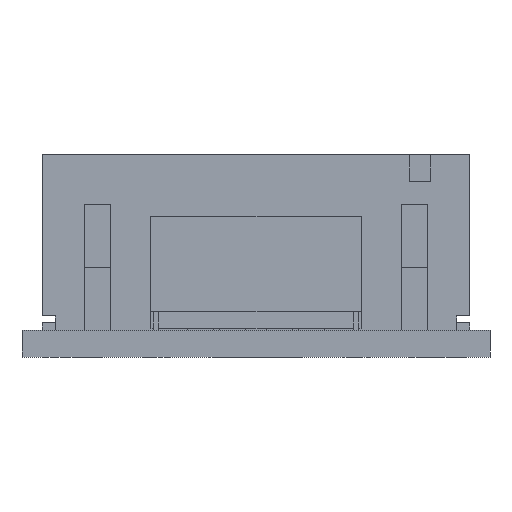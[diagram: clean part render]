
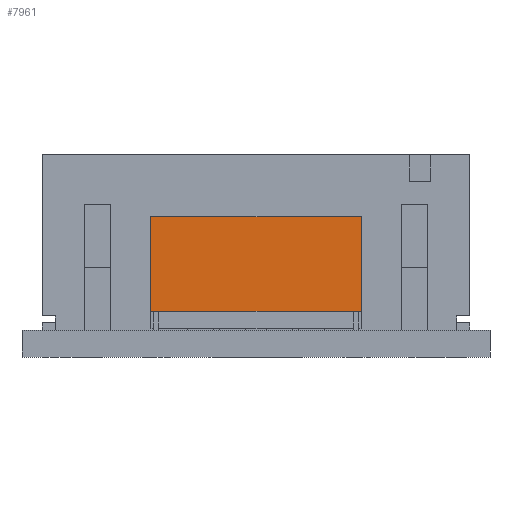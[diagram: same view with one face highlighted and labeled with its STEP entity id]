
A CAD part, front view. The second image highlights one B-rep face of the part: STEP entity #7961.
In plain terms, the highlighted planar face has unit normal (0, -1, 0).
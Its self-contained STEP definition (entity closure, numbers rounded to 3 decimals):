
#2902 = LINE ( 'NONE', #17994, #33090 ) ;
#3238 = CARTESIAN_POINT ( 'NONE',  ( 12.89, 4.265, 1.736 ) ) ;
#3552 = ORIENTED_EDGE ( 'NONE', *, *, #7625, .F. ) ;
#3832 = CARTESIAN_POINT ( 'NONE',  ( 4.89, 4.265, 5.336 ) ) ;
#4590 = DIRECTION ( 'NONE',  ( 1., 0., 0. ) ) ;
#5463 = ORIENTED_EDGE ( 'NONE', *, *, #35255, .F. ) ;
#6146 = VERTEX_POINT ( 'NONE', #10281 ) ;
#6192 = DIRECTION ( 'NONE',  ( -1., 0., 0. ) ) ;
#6635 = AXIS2_PLACEMENT_3D ( 'NONE', #11592, #20023, #6192 ) ;
#7069 = EDGE_LOOP ( 'NONE', ( #13850, #34605, #5463, #3552 ) ) ;
#7625 = EDGE_CURVE ( 'NONE', #20616, #19375, #28344, .T. ) ;
#7734 = DIRECTION ( 'NONE',  ( 1., 0., 0. ) ) ;
#7961 = ADVANCED_FACE ( 'NONE', ( #20391 ), #34628, .F. ) ;
#9456 = CARTESIAN_POINT ( 'NONE',  ( 12.89, 4.265, 5.336 ) ) ;
#9786 = CARTESIAN_POINT ( 'NONE',  ( 4.89, 4.265, 1.736 ) ) ;
#10281 = CARTESIAN_POINT ( 'NONE',  ( 4.89, 4.265, 1.736 ) ) ;
#11592 = CARTESIAN_POINT ( 'NONE',  ( 4.89, 4.265, 5.336 ) ) ;
#13850 = ORIENTED_EDGE ( 'NONE', *, *, #32682, .T. ) ;
#15562 = VECTOR ( 'NONE', #7734, 1000. ) ;
#17663 = VECTOR ( 'NONE', #32648, 1000. ) ;
#17994 = CARTESIAN_POINT ( 'NONE',  ( 12.89, 4.265, 5.336 ) ) ;
#19375 = VERTEX_POINT ( 'NONE', #9456 ) ;
#20023 = DIRECTION ( 'NONE',  ( 0., 1., 0. ) ) ;
#20391 = FACE_OUTER_BOUND ( 'NONE', #7069, .T. ) ;
#20474 = VERTEX_POINT ( 'NONE', #3238 ) ;
#20616 = VERTEX_POINT ( 'NONE', #29420 ) ;
#20830 = LINE ( 'NONE', #3832, #17663 ) ;
#21969 = CARTESIAN_POINT ( 'NONE',  ( 4.89, 4.265, 5.336 ) ) ;
#26585 = VECTOR ( 'NONE', #4590, 1000. ) ;
#27212 = DIRECTION ( 'NONE',  ( 0., 0., -1. ) ) ;
#28344 = LINE ( 'NONE', #21969, #15562 ) ;
#29420 = CARTESIAN_POINT ( 'NONE',  ( 4.89, 4.265, 5.336 ) ) ;
#32648 = DIRECTION ( 'NONE',  ( 0., 0., -1. ) ) ;
#32682 = EDGE_CURVE ( 'NONE', #20616, #6146, #20830, .T. ) ;
#33090 = VECTOR ( 'NONE', #27212, 1000. ) ;
#34605 = ORIENTED_EDGE ( 'NONE', *, *, #36738, .T. ) ;
#34628 = PLANE ( 'NONE',  #6635 ) ;
#35255 = EDGE_CURVE ( 'NONE', #19375, #20474, #2902, .T. ) ;
#35485 = LINE ( 'NONE', #9786, #26585 ) ;
#36738 = EDGE_CURVE ( 'NONE', #6146, #20474, #35485, .T. ) ;
